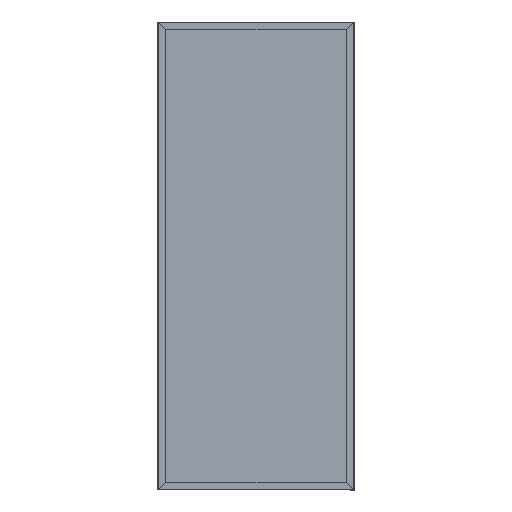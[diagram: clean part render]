
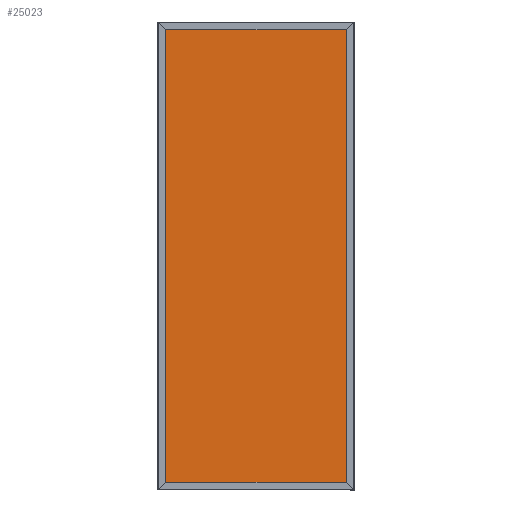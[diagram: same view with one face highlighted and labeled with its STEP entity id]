
A CAD part, top view. The second image highlights one B-rep face of the part: STEP entity #25023.
In plain terms, the highlighted planar face has unit normal (0, 0, 1).
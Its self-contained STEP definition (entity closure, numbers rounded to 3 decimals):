
#106 = VECTOR ( 'NONE', #8389, 1000. ) ;
#1100 = CARTESIAN_POINT ( 'NONE',  ( 465.07, -1162.2, -13.25 ) ) ;
#1536 = LINE ( 'NONE', #10290, #106 ) ;
#3322 = EDGE_LOOP ( 'NONE', ( #27948, #26946, #9562, #4761 ) ) ;
#3967 = VECTOR ( 'NONE', #18701, 1000. ) ;
#4120 = EDGE_CURVE ( 'NONE', #4605, #11195, #16373, .T. ) ;
#4393 = EDGE_CURVE ( 'NONE', #11814, #11195, #11120, .T. ) ;
#4605 = VERTEX_POINT ( 'NONE', #7187 ) ;
#4761 = ORIENTED_EDGE ( 'NONE', *, *, #4120, .T. ) ;
#7187 = CARTESIAN_POINT ( 'NONE',  ( 465.07, 1162.2, -13.25 ) ) ;
#8389 = DIRECTION ( 'NONE',  ( -1., 0., 0. ) ) ;
#8660 = CARTESIAN_POINT ( 'NONE',  ( -465.07, 0., -13.25 ) ) ;
#9244 = DIRECTION ( 'NONE',  ( 0., 0., -1. ) ) ;
#9468 = EDGE_CURVE ( 'NONE', #15581, #11814, #1536, .T. ) ;
#9562 = ORIENTED_EDGE ( 'NONE', *, *, #11657, .T. ) ;
#10290 = CARTESIAN_POINT ( 'NONE',  ( 0., -1162.2, -13.25 ) ) ;
#11120 = LINE ( 'NONE', #8660, #23959 ) ;
#11151 = AXIS2_PLACEMENT_3D ( 'NONE', #20866, #9244, #20726 ) ;
#11195 = VERTEX_POINT ( 'NONE', #11654 ) ;
#11654 = CARTESIAN_POINT ( 'NONE',  ( -465.07, 1162.2, -13.25 ) ) ;
#11657 = EDGE_CURVE ( 'NONE', #15581, #4605, #28683, .T. ) ;
#11814 = VERTEX_POINT ( 'NONE', #27896 ) ;
#12001 = FACE_OUTER_BOUND ( 'NONE', #3322, .T. ) ;
#13898 = CARTESIAN_POINT ( 'NONE',  ( 0., 1162.2, -13.25 ) ) ;
#15326 = DIRECTION ( 'NONE',  ( 0., 1., 0. ) ) ;
#15581 = VERTEX_POINT ( 'NONE', #1100 ) ;
#16373 = LINE ( 'NONE', #13898, #3967 ) ;
#17930 = CARTESIAN_POINT ( 'NONE',  ( 465.07, 0., -13.25 ) ) ;
#18701 = DIRECTION ( 'NONE',  ( -1., 0., 0. ) ) ;
#20726 = DIRECTION ( 'NONE',  ( -1., 0., 0. ) ) ;
#20866 = CARTESIAN_POINT ( 'NONE',  ( 0., 0., -13.25 ) ) ;
#23959 = VECTOR ( 'NONE', #15326, 1000. ) ;
#24326 = DIRECTION ( 'NONE',  ( 0., 1., 0. ) ) ;
#25023 = ADVANCED_FACE ( 'NONE', ( #12001 ), #25224, .F. ) ;
#25224 = PLANE ( 'NONE',  #11151 ) ;
#26478 = VECTOR ( 'NONE', #24326, 1000. ) ;
#26946 = ORIENTED_EDGE ( 'NONE', *, *, #9468, .F. ) ;
#27896 = CARTESIAN_POINT ( 'NONE',  ( -465.07, -1162.2, -13.25 ) ) ;
#27948 = ORIENTED_EDGE ( 'NONE', *, *, #4393, .F. ) ;
#28683 = LINE ( 'NONE', #17930, #26478 ) ;
